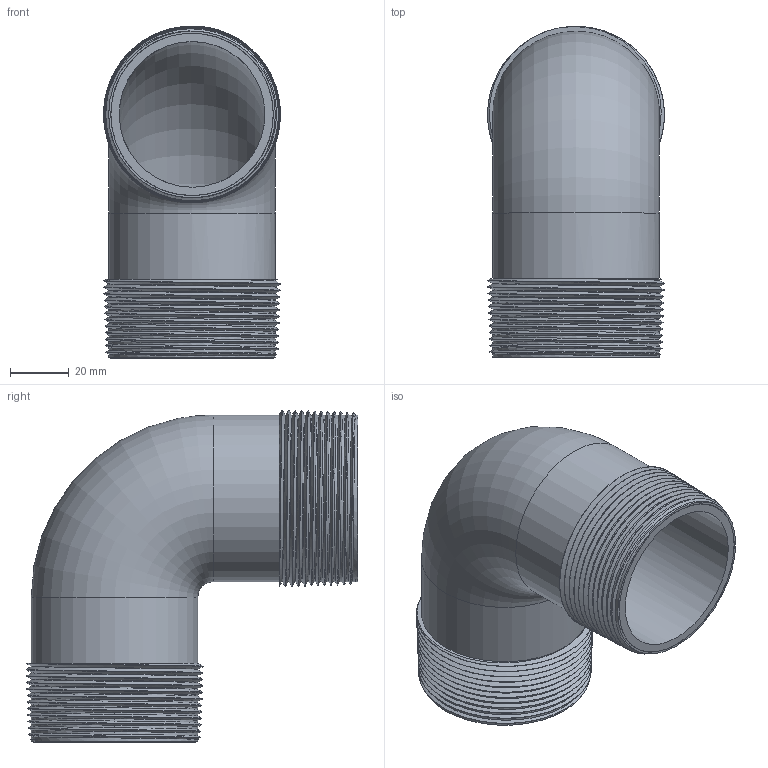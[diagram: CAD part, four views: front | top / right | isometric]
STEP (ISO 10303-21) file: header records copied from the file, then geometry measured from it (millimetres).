
FILE_DESCRIPTION(/* description */ ('Alibre Inc.'),/* implementation_level */ '2;1');
FILE_NAME(/* name */ 'export0',/* time_stamp */ '2016-11-30T09:34:22-05:00',/* author */ (''),/* organization */ (''),/* preprocessor_version */ 'ST-DEVELOPER v14',/* originating_system */ 'Alibre',/* authorisation */ '');
FILE_SCHEMA (('CONFIG_CONTROL_DESIGN'));
Length unit declared in the file: centimetre
Products named in the file (1): ID_1
Bounding box: 60.07 x 112.59 x 112.81 mm (x, y, z)
Volume: 94594.3 mm3; surface area: 58587.4 mm2
Topology: 1 solids, 1 shells, 61 faces, 229 edges, 174 vertices
Faces by surface type: cylinder 27, cone 16, bspline 10, plane 6, torus 2
Full cylindrical faces by diameter (mm): 49.53 x2, 56.642 x23
Entity records: 33585 total; most frequent: CARTESIAN_POINT 32244, ORIENTED_EDGE 304, DIRECTION 224, EDGE_CURVE 152, VERTEX_POINT 126, AXIS2_PLACEMENT_3D 112, CIRCLE 96, EDGE_LOOP 54
